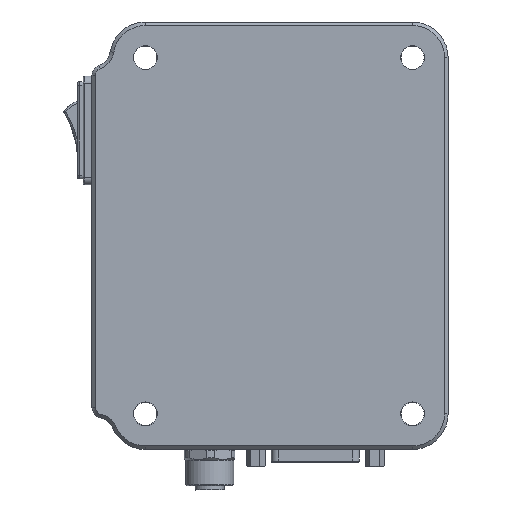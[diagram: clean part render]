
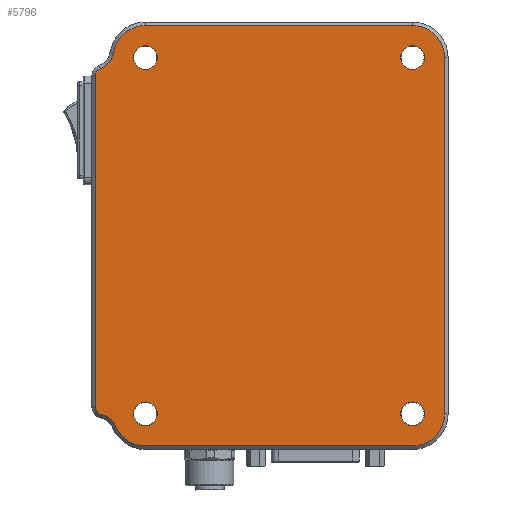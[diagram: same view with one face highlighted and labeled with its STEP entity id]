
A CAD part, front view. The second image highlights one B-rep face of the part: STEP entity #5796.
In plain terms, the highlighted planar face has unit normal (0, -1, 0).
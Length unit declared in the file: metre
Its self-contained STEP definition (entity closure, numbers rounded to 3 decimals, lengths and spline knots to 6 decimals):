
#396=LINE('',#12722,#724);
#401=LINE('',#12738,#729);
#404=LINE('',#12746,#732);
#407=LINE('',#12754,#735);
#724=VECTOR('',#7503,0.093196);
#729=VECTOR('',#7522,0.075);
#732=VECTOR('',#7531,0.1);
#735=VECTOR('',#7540,0.075);
#1471=FACE_BOUND('',#2206,.T.);
#1472=FACE_BOUND('',#2207,.T.);
#1473=FACE_BOUND('',#2208,.T.);
#1474=FACE_BOUND('',#2209,.T.);
#1763=FACE_OUTER_BOUND('',#2205,.T.);
#2205=EDGE_LOOP('',(#4941,#4942,#4943,#4944,#4945,#4946,#4947,#4948,#4949,
#4950,#4951,#4952));
#2206=EDGE_LOOP('',(#4953));
#2207=EDGE_LOOP('',(#4954));
#2208=EDGE_LOOP('',(#4955));
#2209=EDGE_LOOP('',(#4956));
#2518=CIRCLE('',#6295,0.002);
#2519=CIRCLE('',#6297,0.006);
#2520=CIRCLE('',#6299,0.009);
#2521=CIRCLE('',#6302,0.009);
#2522=CIRCLE('',#6305,0.009);
#2523=CIRCLE('',#6308,0.009);
#2524=CIRCLE('',#6310,0.006);
#2525=CIRCLE('',#6312,0.002);
#2526=CIRCLE('',#6314,0.00335);
#2527=CIRCLE('',#6315,0.00335);
#2528=CIRCLE('',#6316,0.00335);
#2529=CIRCLE('',#6317,0.00335);
#2993=VERTEX_POINT('',#12718);
#2994=VERTEX_POINT('',#12720);
#2995=VERTEX_POINT('',#12724);
#2996=VERTEX_POINT('',#12728);
#2997=VERTEX_POINT('',#12732);
#2998=VERTEX_POINT('',#12736);
#2999=VERTEX_POINT('',#12740);
#3000=VERTEX_POINT('',#12744);
#3001=VERTEX_POINT('',#12748);
#3002=VERTEX_POINT('',#12752);
#3003=VERTEX_POINT('',#12756);
#3004=VERTEX_POINT('',#12760);
#3005=VERTEX_POINT('',#12766);
#3006=VERTEX_POINT('',#12768);
#3007=VERTEX_POINT('',#12770);
#3008=VERTEX_POINT('',#12772);
#3663=EDGE_CURVE('',#2994,#2993,#396,.T.);
#3665=EDGE_CURVE('',#2993,#2995,#2518,.T.);
#3666=EDGE_CURVE('',#2995,#2996,#2519,.T.);
#3669=EDGE_CURVE('',#2996,#2997,#2520,.T.);
#3671=EDGE_CURVE('',#2997,#2998,#401,.T.);
#3673=EDGE_CURVE('',#2998,#2999,#2521,.T.);
#3675=EDGE_CURVE('',#2999,#3000,#404,.T.);
#3677=EDGE_CURVE('',#3000,#3001,#2522,.T.);
#3679=EDGE_CURVE('',#3001,#3002,#407,.T.);
#3680=EDGE_CURVE('',#3002,#3003,#2523,.T.);
#3683=EDGE_CURVE('',#3003,#3004,#2524,.T.);
#3684=EDGE_CURVE('',#3004,#2994,#2525,.T.);
#3685=EDGE_CURVE('',#3005,#3005,#2526,.T.);
#3686=EDGE_CURVE('',#3006,#3006,#2527,.T.);
#3687=EDGE_CURVE('',#3007,#3007,#2528,.T.);
#3688=EDGE_CURVE('',#3008,#3008,#2529,.T.);
#4941=ORIENTED_EDGE('',*,*,#3663,.F.);
#4942=ORIENTED_EDGE('',*,*,#3684,.F.);
#4943=ORIENTED_EDGE('',*,*,#3683,.F.);
#4944=ORIENTED_EDGE('',*,*,#3680,.F.);
#4945=ORIENTED_EDGE('',*,*,#3679,.F.);
#4946=ORIENTED_EDGE('',*,*,#3677,.F.);
#4947=ORIENTED_EDGE('',*,*,#3675,.F.);
#4948=ORIENTED_EDGE('',*,*,#3673,.F.);
#4949=ORIENTED_EDGE('',*,*,#3671,.F.);
#4950=ORIENTED_EDGE('',*,*,#3669,.F.);
#4951=ORIENTED_EDGE('',*,*,#3666,.F.);
#4952=ORIENTED_EDGE('',*,*,#3665,.F.);
#4953=ORIENTED_EDGE('',*,*,#3685,.T.);
#4954=ORIENTED_EDGE('',*,*,#3686,.T.);
#4955=ORIENTED_EDGE('',*,*,#3687,.T.);
#4956=ORIENTED_EDGE('',*,*,#3688,.T.);
#5513=PLANE('',#6313);
#5796=ADVANCED_FACE('',(#1763,#1471,#1472,#1473,#1474),#5513,.T.);
#6295=AXIS2_PLACEMENT_3D('',#12726,#7507,#7508);
#6297=AXIS2_PLACEMENT_3D('',#12729,#7511,#7512);
#6299=AXIS2_PLACEMENT_3D('',#12734,#7517,#7518);
#6302=AXIS2_PLACEMENT_3D('',#12742,#7526,#7527);
#6305=AXIS2_PLACEMENT_3D('',#12750,#7535,#7536);
#6308=AXIS2_PLACEMENT_3D('',#12757,#7543,#7544);
#6310=AXIS2_PLACEMENT_3D('',#12762,#7549,#7550);
#6312=AXIS2_PLACEMENT_3D('',#12764,#7553,#7554);
#6313=AXIS2_PLACEMENT_3D('',#12765,#7555,#7556);
#6314=AXIS2_PLACEMENT_3D('',#12767,#7557,#7558);
#6315=AXIS2_PLACEMENT_3D('',#12769,#7559,#7560);
#6316=AXIS2_PLACEMENT_3D('',#12771,#7561,#7562);
#6317=AXIS2_PLACEMENT_3D('',#12773,#7563,#7564);
#7503=DIRECTION('',(0.,0.,1.));
#7507=DIRECTION('center_axis',(0.,1.,0.));
#7508=DIRECTION('ref_axis',(-1.,0.,0.));
#7511=DIRECTION('center_axis',(0.,-1.,0.));
#7512=DIRECTION('ref_axis',(0.,0.,-1.));
#7517=DIRECTION('center_axis',(0.,1.,0.));
#7518=DIRECTION('ref_axis',(-0.707,0.,0.707));
#7522=DIRECTION('',(1.,0.,0.));
#7526=DIRECTION('center_axis',(0.,1.,0.));
#7527=DIRECTION('ref_axis',(0.707,0.,0.707));
#7531=DIRECTION('',(0.,0.,-1.));
#7535=DIRECTION('center_axis',(0.,1.,0.));
#7536=DIRECTION('ref_axis',(0.707,0.,-0.707));
#7540=DIRECTION('',(-1.,0.,0.));
#7543=DIRECTION('center_axis',(0.,1.,0.));
#7544=DIRECTION('ref_axis',(0.,0.,-1.));
#7549=DIRECTION('center_axis',(0.,-1.,0.));
#7550=DIRECTION('ref_axis',(0.548,0.,0.837));
#7553=DIRECTION('center_axis',(0.,1.,0.));
#7554=DIRECTION('ref_axis',(-1.,0.,0.));
#7555=DIRECTION('center_axis',(0.,-1.,0.));
#7556=DIRECTION('ref_axis',(0.,0.,-1.));
#7557=DIRECTION('center_axis',(0.,1.,0.));
#7558=DIRECTION('ref_axis',(1.,0.,0.));
#7559=DIRECTION('center_axis',(0.,1.,0.));
#7560=DIRECTION('ref_axis',(1.,0.,0.));
#7561=DIRECTION('center_axis',(0.,1.,0.));
#7562=DIRECTION('ref_axis',(1.,0.,0.));
#7563=DIRECTION('center_axis',(0.,1.,0.));
#7564=DIRECTION('ref_axis',(1.,0.,0.));
#12718=CARTESIAN_POINT('',(-0.137404,0.013441,-0.014998));
#12720=CARTESIAN_POINT('',(-0.137404,0.013441,-0.108193));
#12722=CARTESIAN_POINT('',(-0.137404,0.013441,-0.108193));
#12724=CARTESIAN_POINT('',(-0.136102,0.013441,-0.013123));
#12726=CARTESIAN_POINT('Origin',(-0.135404,0.013441,-0.014998));
#12728=CARTESIAN_POINT('',(-0.132279,0.013441,-0.0085));
#12729=CARTESIAN_POINT('Origin',(-0.138195,0.013441,-0.0075));
#12732=CARTESIAN_POINT('',(-0.123404,0.013441,-0.001));
#12734=CARTESIAN_POINT('Origin',(-0.123404,0.013441,-0.01));
#12736=CARTESIAN_POINT('',(-0.048404,0.013441,-0.001));
#12738=CARTESIAN_POINT('',(-0.123404,0.013441,-0.001));
#12740=CARTESIAN_POINT('',(-0.039404,0.013441,-0.01));
#12742=CARTESIAN_POINT('Origin',(-0.048404,0.013441,
-0.01));
#12744=CARTESIAN_POINT('',(-0.039404,0.013441,-0.11));
#12746=CARTESIAN_POINT('',(-0.039404,0.013441,-0.01));
#12748=CARTESIAN_POINT('',(-0.048404,0.013441,-0.119));
#12750=CARTESIAN_POINT('Origin',(-0.048404,0.013441,
-0.11));
#12752=CARTESIAN_POINT('',(-0.123404,0.013441,-0.119));
#12754=CARTESIAN_POINT('',(-0.048404,0.013441,-0.119));
#12756=CARTESIAN_POINT('',(-0.131653,0.013441,-0.1136));
#12757=CARTESIAN_POINT('Origin',(-0.123404,0.013441,-0.11));
#12760=CARTESIAN_POINT('',(-0.135841,0.013441,-0.110145));
#12762=CARTESIAN_POINT('Origin',(-0.137152,0.013441,-0.116));
#12764=CARTESIAN_POINT('Origin',(-0.135404,0.013441,-0.108193));
#12765=CARTESIAN_POINT('Origin',(-0.135904,0.013441,-0.0305));
#12766=CARTESIAN_POINT('',(-0.120054,0.013441,-0.11));
#12767=CARTESIAN_POINT('Origin',(-0.123404,0.013441,-0.11));
#12768=CARTESIAN_POINT('',(-0.045054,0.013441,-0.01));
#12769=CARTESIAN_POINT('Origin',(-0.048404,0.013441,
-0.01));
#12770=CARTESIAN_POINT('',(-0.045054,0.013441,-0.11));
#12771=CARTESIAN_POINT('Origin',(-0.048404,0.013441,
-0.11));
#12772=CARTESIAN_POINT('',(-0.120054,0.013441,-0.01));
#12773=CARTESIAN_POINT('Origin',(-0.123404,0.013441,-0.01));
